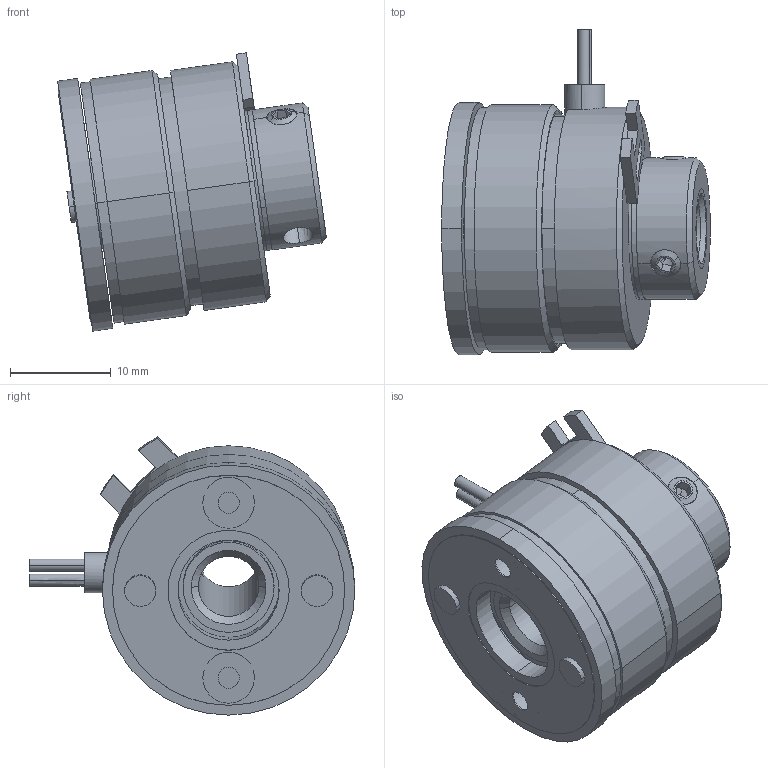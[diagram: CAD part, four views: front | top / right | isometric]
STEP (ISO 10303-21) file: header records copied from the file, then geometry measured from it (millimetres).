
FILE_DESCRIPTION((''),'2;1');
FILE_NAME('G:\Konstruktion\Datenkonvertierung\step\14.100.01.103.stp','2004-01-16T14:53:13',('schöttelndreier'),(''),'Autodesk Inventor 8','Autodesk Inventor 8','');
FILE_SCHEMA(('AUTOMOTIVE_DESIGN { 1 0 10303 214 1 1 1 1 }'));
Length unit declared in the file: millimetre
Products named in the file (21): 14.100.01.103; 14.100.00.000-001 dxf; 14.100.01.992-300 dxf; 14.100.01.992-152 dxf; Reibbelag 01 dxf; Spritzmasse 01 dxf; 14.100.01.995-001 dxf; 14.100.01.999-001; 14.100.01.999-001 dxf; 14.100.01.991-200 dxf; 14.100.01.994-100 dxf; Spule 01; Lager; 14.100.01.991-300; 14.100.01.991-301; 14.100.01.991-251; DIN 916  (Regelgewinde) M3  x  4; 14.100.01.003-001; 14.100.01.993-006; 14.100.01.993-100; Niete
Assembly tree (22 placements, depth 4):
  14.100.01.103
    14.100.00.000-001 dxf
      14.100.01.992-300 dxf
      14.100.01.992-152 dxf
      Reibbelag 01 dxf
      Spritzmasse 01 dxf
    14.100.01.995-001 dxf
      14.100.01.999-001
        14.100.01.999-001 dxf
        14.100.01.991-200 dxf
      14.100.01.994-100 dxf
      Spule 01
      Lager
    14.100.01.991-300
    14.100.01.991-301
    14.100.01.991-251
    DIN 916  (Regelgewinde) M3  x  4  x2
    14.100.01.003-001
      14.100.01.993-006
      14.100.01.993-100
      Niete  x2
Bounding box: 26.61 x 32.25 x 27.57 mm (x, y, z)
Volume: 7430.3 mm3; surface area: 12316.3 mm2
Topology: 18 solids, 18 shells, 272 faces, 623 edges, 393 vertices
Faces by surface type: cylinder 128, plane 89, cone 41, bspline 12, torus 2
Entity records: 8265 total; most frequent: CARTESIAN_POINT 1978, DIRECTION 1325, ORIENTED_EDGE 1110, EDGE_CURVE 555, AXIS2_PLACEMENT_3D 549, VERTEX_POINT 359, EDGE_LOOP 304, CIRCLE 278
